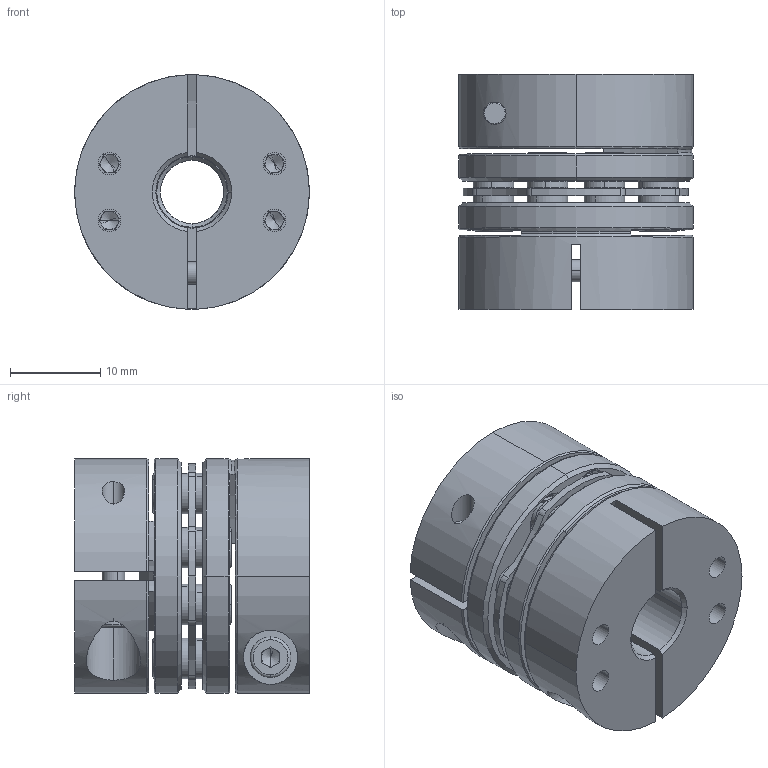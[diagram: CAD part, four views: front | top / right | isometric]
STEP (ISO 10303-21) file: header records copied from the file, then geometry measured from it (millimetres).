
FILE_DESCRIPTION (( 'STEP AP203' ), '1' );
FILE_NAME ('LDG-D26-7-8.STEP', '2021-10-28T03:28:32', ( '' ), ( '' ), 'SwSTEP 2.0', 'SolidWorks 2018', '' );
FILE_SCHEMA (( 'CONFIG_CONTROL_DESIGN' ));
Length unit declared in the file: millimetre
Products named in the file (2): LDG-D26-7-8; 錨璃2^LDG-D26蚾饜芞1
Assembly tree (1 placements, depth 2):
  LDG-D26-7-8
    錨璃2^LDG-D26蚾饜芞1
Bounding box: 26 x 26 x 26 mm (x, y, z)
Volume: 10256.7 mm3; surface area: 9073.5 mm2
Topology: 1 solids, 21 shells, 765 faces, 1872 edges, 1159 vertices
Faces by surface type: cylinder 301, plane 244, cone 200, torus 20
Entity records: 23057 total; most frequent: DIRECTION 4281, CARTESIAN_POINT 4164, ORIENTED_EDGE 3688, EDGE_CURVE 1844, AXIS2_PLACEMENT_3D 1740, VERTEX_POINT 1159, CIRCLE 971, EDGE_LOOP 909
